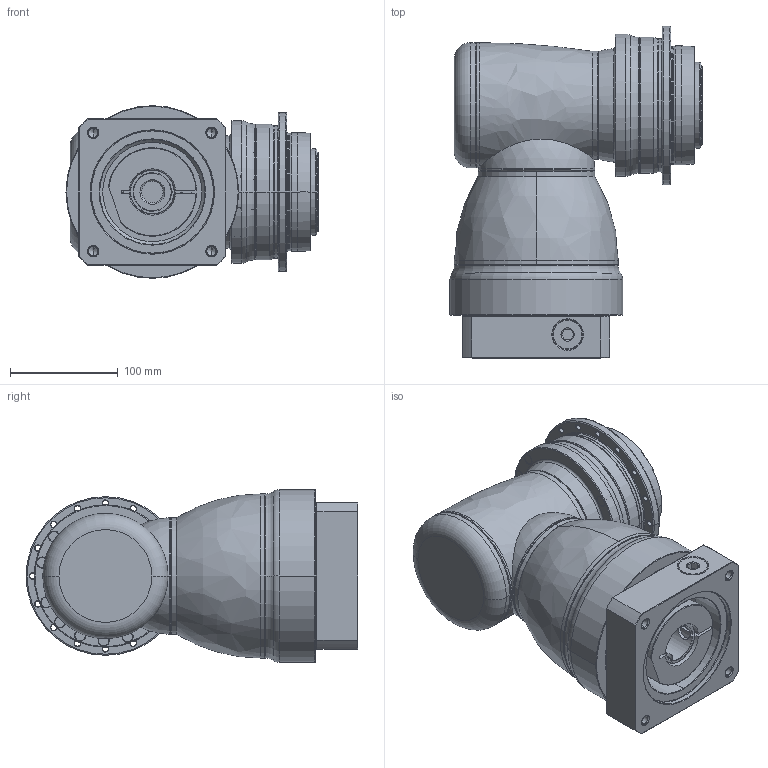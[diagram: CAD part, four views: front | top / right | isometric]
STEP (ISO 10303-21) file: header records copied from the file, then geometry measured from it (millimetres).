
FILE_DESCRIPTION((''),'2;1');
FILE_NAME('APK110_2ST_SBG_35-P0409800201_ASM','2018-10-30T',('d01226'),(''),'PRO/ENGINEER BY PARAMETRIC TECHNOLOGY CORPORATION, 2015240','PRO/ENGINEER BY PARAMETRIC TECHNOLOGY CORPORATION, 2015240','');
FILE_SCHEMA(('CONFIG_CONTROL_DESIGN'));
Length unit declared in the file: millimetre
Products named in the file (13): P0278401003; P0359401103; P1211400001; P1802410011; P1018500002; P1365500001; P1007501001; P1318501301; P0503800012; P0912503001; P0409800201; 21711422019; APK110_2ST_SBG_35-P0409800201_ASM
Assembly tree (12 placements, depth 2):
  APK110_2ST_SBG_35-P0409800201_ASM
    P0278401003
    P0359401103
    P1211400001
    P1802410011
    P1018500002
    P1365500001
    P1007501001
    P1318501301
    P0503800012
    P0912503001
    P0409800201
    21711422019
Bounding box: 233.5 x 307.5 x 160 mm (x, y, z)
Volume: 5074097 mm3; surface area: 527326 mm2
Topology: 13 solids, 34 shells, 794 faces, 1818 edges, 1114 vertices
Faces by surface type: cylinder 334, cone 204, plane 155, torus 80, bspline 19, sphere 2
Entity records: 27603 total; most frequent: CARTESIAN_POINT 8895, DIRECTION 4328, ORIENTED_EDGE 3478, AXIS2_PLACEMENT_3D 1862, EDGE_CURVE 1782, VERTEX_POINT 1114, CIRCLE 1052, EDGE_LOOP 942
